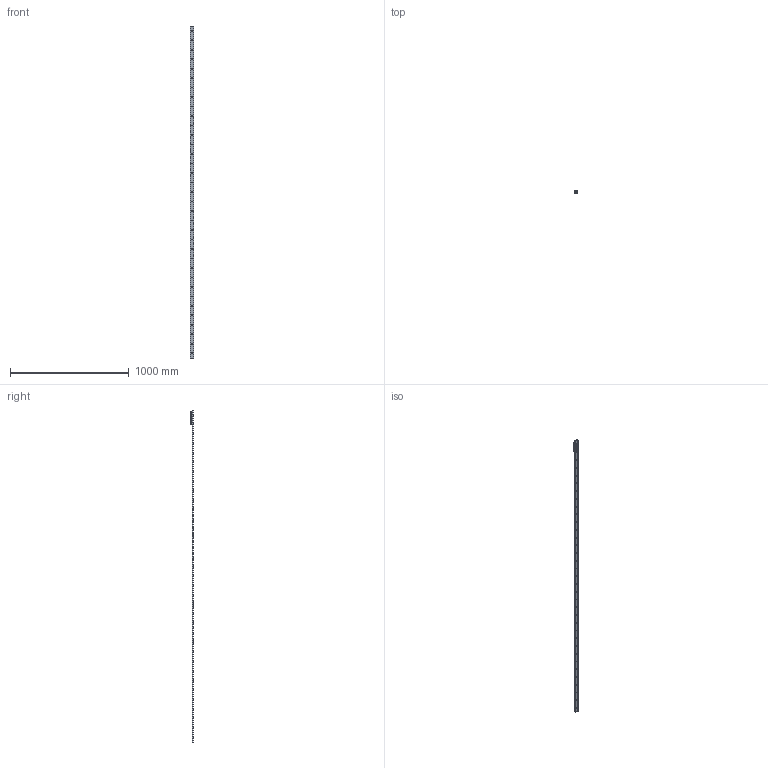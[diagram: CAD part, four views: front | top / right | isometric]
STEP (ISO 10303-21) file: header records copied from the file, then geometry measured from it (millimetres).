
FILE_DESCRIPTION( ( 'STEP AP214' ), '1' );
FILE_NAME( 'p:/temp/worker_22/temp/exporttempdir_796_304_4z98u/format_2/TGV-02800_1_RV28G-3.stp', '2020-11-20T16:42:37', ( 'License CC BY-ND 4.0' ), ( 'CADENAS' ), ' ', 'PARTsolutions', ' ' );
FILE_SCHEMA( ( 'AUTOMOTIVE_DESIGN { 1 0 10303 214 1 1 1 1 }' ) );
Length unit declared in the file: millimetre
Products named in the file (6): TGV-02800/1/RV28G-3; _TGV28-2800-(3-1); _RV28G-3-slider; _RGNV28R; _RGAV28R; _WR28G-01
Assembly tree (7 placements, depth 2):
  TGV-02800/1/RV28G-3
    _TGV28-2800-(3-1)
    _RV28G-3-slider
    _RGNV28R  x2
    _RGAV28R
    _WR28G-01  x2
Bounding box: 28 x 24 x 2800 mm (x, y, z)
Volume: 440752.8 mm3; surface area: 283341.6 mm2
Topology: 7 solids, 7 shells, 1082 faces, 2820 edges, 1834 vertices
Faces by surface type: plane 657, cylinder 315, cone 75, bspline 26, torus 9
Full cylindrical faces by diameter (mm): 1.27 x4, 2 x2, 2.5 x6, 4 x4, 4.134 x4, 4.2 x3, 5 x3, 5.5 x3, 5.75 x35, 7 x5, 7.5 x1, 8 x6, 10.8 x3, 17 x3, 20.75 x6
Entity records: 26501 total; most frequent: CARTESIAN_POINT 4155, DIRECTION 3550, ORIENTED_EDGE 3204, EDGE_CURVE 1602, AXIS2_PLACEMENT_3D 1380, VERTEX_POINT 1134, EDGE_LOOP 1001, LINE 790
